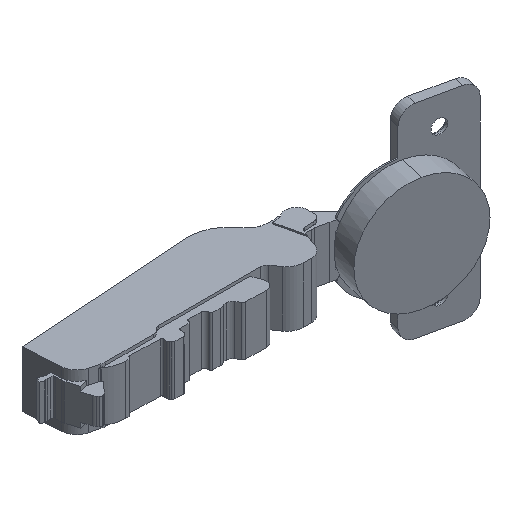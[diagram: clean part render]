
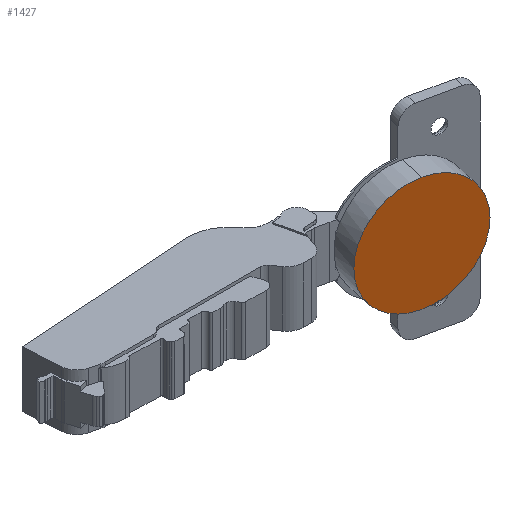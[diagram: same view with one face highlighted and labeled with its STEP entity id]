
A CAD part, isometric view. The second image highlights one B-rep face of the part: STEP entity #1427.
In plain terms, the highlighted planar face has unit normal (-0.212, -0.977, 0).
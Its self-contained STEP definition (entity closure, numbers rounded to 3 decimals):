
#92 = CIRCLE ( 'NONE', #3700, 17.4 ) ;
#224 = EDGE_CURVE ( 'NONE', #1500, #2226, #92, .T. ) ;
#350 = CARTESIAN_POINT ( 'NONE',  ( 18.081, -19.016, -17.4 ) ) ;
#488 = CARTESIAN_POINT ( 'NONE',  ( 28.799, -21.336, -7.7 ) ) ;
#1291 = DIRECTION ( 'NONE',  ( 0.977, -0.212, 0. ) ) ;
#1422 = DIRECTION ( 'NONE',  ( -0.212, -0.977, 0. ) ) ;
#1427 = ADVANCED_FACE ( 'NONE', ( #5458 ), #2512, .F. ) ;
#1500 = VERTEX_POINT ( 'NONE', #6555 ) ;
#2226 = VERTEX_POINT ( 'NONE', #350 ) ;
#2512 = PLANE ( 'NONE',  #5897 ) ;
#2577 = ORIENTED_EDGE ( 'NONE', *, *, #224, .T. ) ;
#2586 = CIRCLE ( 'NONE', #3434, 17.4 ) ;
#2955 = DIRECTION ( 'NONE',  ( 0.977, -0.212, 0. ) ) ;
#3350 = DIRECTION ( 'NONE',  ( -0.212, -0.977, 0. ) ) ;
#3434 = AXIS2_PLACEMENT_3D ( 'NONE', #6266, #3350, #1291 ) ;
#3700 = AXIS2_PLACEMENT_3D ( 'NONE', #5852, #1422, #2955 ) ;
#3950 = DIRECTION ( 'NONE',  ( 0., 0., 1. ) ) ;
#4686 = ORIENTED_EDGE ( 'NONE', *, *, #5639, .T. ) ;
#5423 = DIRECTION ( 'NONE',  ( 0.212, 0.977, 0. ) ) ;
#5458 = FACE_OUTER_BOUND ( 'NONE', #6081, .T. ) ;
#5639 = EDGE_CURVE ( 'NONE', #2226, #1500, #2586, .T. ) ;
#5852 = CARTESIAN_POINT ( 'NONE',  ( 18.081, -19.016, 0. ) ) ;
#5897 = AXIS2_PLACEMENT_3D ( 'NONE', #488, #5423, #3950 ) ;
#6081 = EDGE_LOOP ( 'NONE', ( #2577, #4686 ) ) ;
#6266 = CARTESIAN_POINT ( 'NONE',  ( 18.081, -19.016, 0. ) ) ;
#6555 = CARTESIAN_POINT ( 'NONE',  ( 18.081, -19.016, 17.4 ) ) ;
